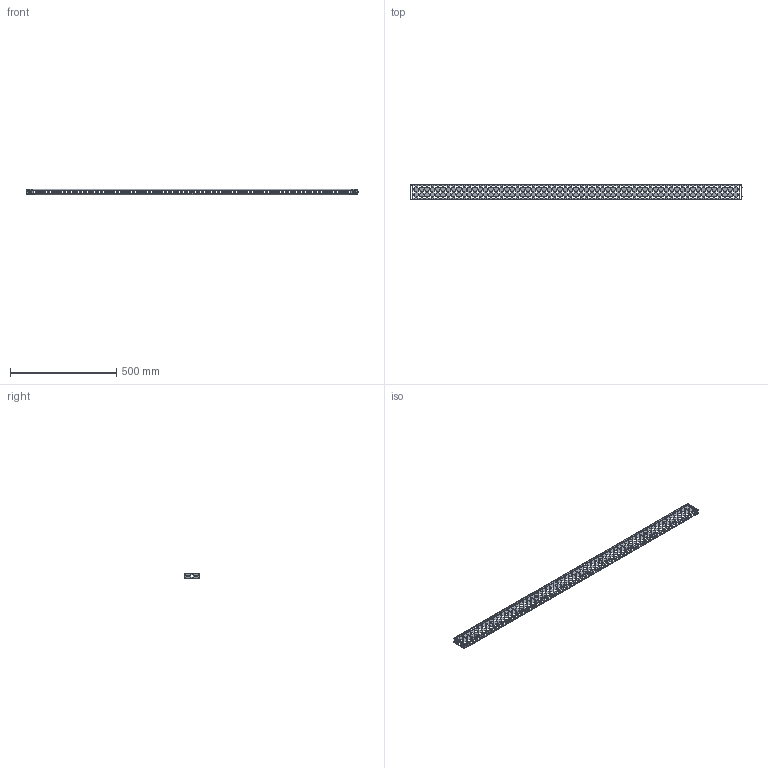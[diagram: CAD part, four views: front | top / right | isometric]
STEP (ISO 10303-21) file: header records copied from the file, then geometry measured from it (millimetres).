
FILE_DESCRIPTION (( 'STEP AP203' ), '1' );
FILE_NAME ('p2g3r17.STEP', '2016-04-14T20:08:16', ( '' ), ( '' ), 'SwSTEP 2.0', 'SolidWorks 2014', '' );
FILE_SCHEMA (( 'CONFIG_CONTROL_DESIGN' ));
Length unit declared in the file: millimetre
Products named in the file (3): 89131030; 89122820; p2g3r17
Assembly tree (3 placements, depth 2):
  p2g3r17
    89131030
    89122820  x2
Bounding box: 1561.03 x 75 x 24 mm (x, y, z)
Volume: 280715.7 mm3; surface area: 351597.6 mm2
Topology: 3 solids, 3 shells, 2380 faces, 6990 edges, 4604 vertices
Faces by surface type: plane 1364, cylinder 964, bspline 20, sphere 16, torus 16
Entity records: 85314 total; most frequent: CARTESIAN_POINT 19999, ORIENTED_EDGE 13344, DIRECTION 12984, EDGE_CURVE 6672, VECTOR 4812, LINE 4812, VERTEX_POINT 4420, AXIS2_PLACEMENT_3D 4086
